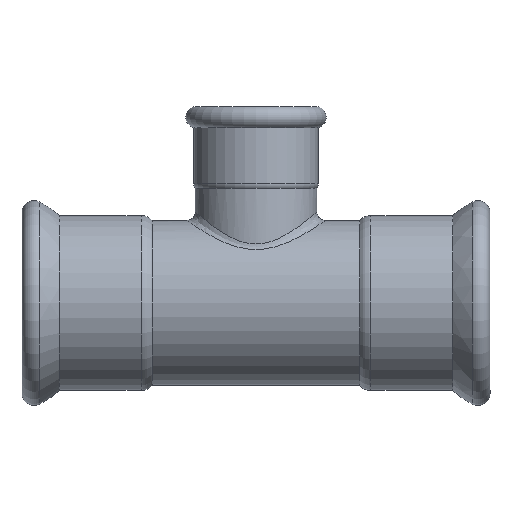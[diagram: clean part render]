
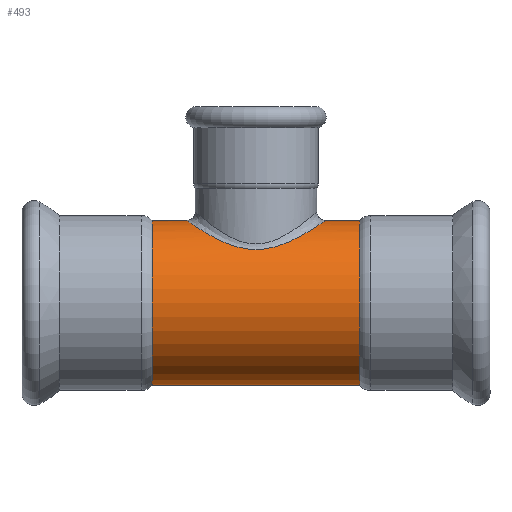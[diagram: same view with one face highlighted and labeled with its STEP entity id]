
A CAD part, front view. The second image highlights one B-rep face of the part: STEP entity #493.
In plain terms, the highlighted cylindrical face has radius 38.05 mm (diameter 76.1 mm), a full revolution.
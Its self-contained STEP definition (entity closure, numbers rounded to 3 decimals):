
#20=B_SPLINE_CURVE_WITH_KNOTS($,3,(#1311,#1312,#1313,#1314,#1315,#1316,
#1317,#1318,#1319,#1320,#1321,#1322,#1323,#1324,#1325,#1326,#1327,#1328,
#1329,#1330,#1331,#1332,#1333,#1334,#1335,#1336,#1337,#1338,#1339,#1340,
#1341),.UNSPECIFIED.,.T.,.F.,(4,1,1,1,1,1,1,1,1,1,1,1,1,1,1,1,1,1,1,1,1,
1,1,1,1,1,1,1,4),(-17.805,-17.328,-17.169,
-16.533,-15.897,-15.42,-15.261,
-14.413,-13.565,-12.718,-12.082,
-11.87,-11.022,-10.174,-9.326,
-8.902,-8.478,-8.054,-7.631,
-7.207,-6.783,-5.935,-5.087,
-4.239,-3.391,-2.544,-1.272,
-0.636,0.),.UNSPECIFIED.);
#60=FACE_BOUND($,#182,.T.);
#61=FACE_BOUND($,#183,.T.);
#93=CYLINDRICAL_SURFACE($,#565,38.05);
#122=FACE_OUTER_BOUND($,#181,.T.);
#181=EDGE_LOOP($,(#424));
#182=EDGE_LOOP($,(#425));
#183=EDGE_LOOP($,(#426));
#255=CIRCLE($,#566,38.05);
#256=CIRCLE($,#567,38.05);
#300=VERTEX_POINT($,#1277);
#302=VERTEX_POINT($,#1344);
#303=VERTEX_POINT($,#1346);
#352=EDGE_CURVE($,#300,#300,#20,.T.);
#353=EDGE_CURVE($,#302,#302,#255,.T.);
#354=EDGE_CURVE($,#303,#303,#256,.T.);
#424=ORIENTED_EDGE($,*,*,#353,.F.);
#425=ORIENTED_EDGE($,*,*,#354,.T.);
#426=ORIENTED_EDGE($,*,*,#352,.F.);
#493=ADVANCED_FACE($,(#122,#60,#61),#93,.T.);
#565=AXIS2_PLACEMENT_3D($,#1343,#699,#700);
#566=AXIS2_PLACEMENT_3D($,#1345,#701,#702);
#567=AXIS2_PLACEMENT_3D($,#1347,#703,#704);
#699=DIRECTION('center_axis',(1.,0.,0.));
#700=DIRECTION('ref_axis',(0.,1.,0.));
#701=DIRECTION('center_axis',(1.,0.,0.));
#702=DIRECTION('ref_axis',(0.,1.,0.));
#703=DIRECTION('center_axis',(1.,0.,0.));
#704=DIRECTION('ref_axis',(0.,1.,0.));
#1277=CARTESIAN_POINT('',(-108.,-28.956,24.685));
#1311=CARTESIAN_POINT('Ctrl Pts',(-107.999,-28.956,24.684));
#1312=CARTESIAN_POINT('Ctrl Pts',(-106.117,-28.956,24.685));
#1313=CARTESIAN_POINT('Ctrl Pts',(-103.617,-28.755,24.926));
#1314=CARTESIAN_POINT('Ctrl Pts',(-98.801,-27.848,25.941));
#1315=CARTESIAN_POINT('Ctrl Pts',(-93.775,-26.196,27.689));
#1316=CARTESIAN_POINT('Ctrl Pts',(-88.394,-23.099,30.337));
#1317=CARTESIAN_POINT('Ctrl Pts',(-85.057,-20.273,32.241));
#1318=CARTESIAN_POINT('Ctrl Pts',(-81.535,-16.565,34.361));
#1319=CARTESIAN_POINT('Ctrl Pts',(-77.946,-11.182,36.707));
#1320=CARTESIAN_POINT('Ctrl Pts',(-75.564,-2.325,38.353));
#1321=CARTESIAN_POINT('Ctrl Pts',(-76.309,6.119,37.832));
#1322=CARTESIAN_POINT('Ctrl Pts',(-78.591,11.702,36.289));
#1323=CARTESIAN_POINT('Ctrl Pts',(-81.631,16.733,34.313));
#1324=CARTESIAN_POINT('Ctrl Pts',(-86.106,21.652,31.54));
#1325=CARTESIAN_POINT('Ctrl Pts',(-93.659,26.333,27.626));
#1326=CARTESIAN_POINT('Ctrl Pts',(-101.312,28.597,25.113));
#1327=CARTESIAN_POINT('Ctrl Pts',(-108.014,29.077,24.541));
#1328=CARTESIAN_POINT('Ctrl Pts',(-113.029,28.713,24.974));
#1329=CARTESIAN_POINT('Ctrl Pts',(-117.784,27.684,26.128));
#1330=CARTESIAN_POINT('Ctrl Pts',(-122.161,26.079,27.746));
#1331=CARTESIAN_POINT('Ctrl Pts',(-126.16,23.963,29.608));
#1332=CARTESIAN_POINT('Ctrl Pts',(-130.924,20.526,32.174));
#1333=CARTESIAN_POINT('Ctrl Pts',(-135.858,15.089,35.239));
#1334=CARTESIAN_POINT('Ctrl Pts',(-139.617,6.892,37.78));
#1335=CARTESIAN_POINT('Ctrl Pts',(-140.437,-2.337,38.357));
#1336=CARTESIAN_POINT('Ctrl Pts',(-138.053,-11.191,36.701));
#1337=CARTESIAN_POINT('Ctrl Pts',(-132.278,-19.826,32.946));
#1338=CARTESIAN_POINT('Ctrl Pts',(-124.449,-25.447,28.485));
#1339=CARTESIAN_POINT('Ctrl Pts',(-115.522,-28.408,25.344));
#1340=CARTESIAN_POINT('Ctrl Pts',(-110.508,-28.956,24.684));
#1341=CARTESIAN_POINT('Ctrl Pts',(-107.999,-28.956,24.684));
#1343=CARTESIAN_POINT('Origin',(-67.344,0.,0.));
#1344=CARTESIAN_POINT('',(-60.187,38.05,0.));
#1345=CARTESIAN_POINT('Origin',(-60.187,0.,0.));
#1346=CARTESIAN_POINT('',(-155.813,38.05,0.));
#1347=CARTESIAN_POINT('Origin',(-155.813,0.,0.));
